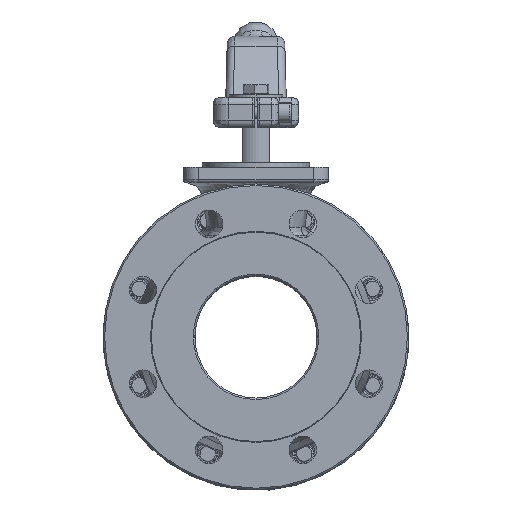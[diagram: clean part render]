
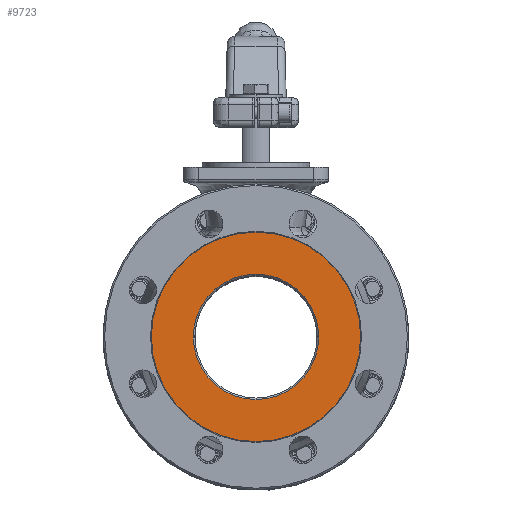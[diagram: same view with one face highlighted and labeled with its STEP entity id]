
A CAD part, top view. The second image highlights one B-rep face of the part: STEP entity #9723.
In plain terms, the highlighted planar face has unit normal (0, 0, 1) as drawn and (0, -1, 0) by its records, which use the part's own axes.
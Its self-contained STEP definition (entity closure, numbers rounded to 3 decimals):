
#303 = CARTESIAN_POINT ( 'NONE',  ( 0., -64.75, -7. ) ) ;
#840 = DIRECTION ( 'NONE',  ( 0., 1., 0. ) ) ;
#842 = ORIENTED_EDGE ( 'NONE', *, *, #29095, .F. ) ;
#1720 = DIRECTION ( 'NONE',  ( 0., 1., 0. ) ) ;
#3445 = DIRECTION ( 'NONE',  ( 0., 0., -1. ) ) ;
#4604 = CIRCLE ( 'NONE', #25547, 41. ) ;
#5002 = EDGE_CURVE ( 'NONE', #19819, #14592, #4604, .T. ) ;
#9723 = ADVANCED_FACE ( 'NONE', ( #12821, #28491 ), #32074, .T. ) ;
#9927 = VERTEX_POINT ( 'NONE', #29290 ) ;
#9960 = CARTESIAN_POINT ( 'NONE',  ( 0., -64.75, -7. ) ) ;
#10192 = EDGE_LOOP ( 'NONE', ( #842, #14095 ) ) ;
#10295 = CIRCLE ( 'NONE', #24162, 41. ) ;
#11205 = CARTESIAN_POINT ( 'NONE',  ( 0., -64.75, -48. ) ) ;
#12175 = EDGE_LOOP ( 'NONE', ( #26979, #24921 ) ) ;
#12821 = FACE_BOUND ( 'NONE', #12175, .T. ) ;
#13094 = DIRECTION ( 'NONE',  ( 0., 0., 1. ) ) ;
#14095 = ORIENTED_EDGE ( 'NONE', *, *, #23642, .F. ) ;
#14592 = VERTEX_POINT ( 'NONE', #39491 ) ;
#19609 = DIRECTION ( 'NONE',  ( 0., 0., -1. ) ) ;
#19618 = CARTESIAN_POINT ( 'NONE',  ( 0., -64.75, -7. ) ) ;
#19819 = VERTEX_POINT ( 'NONE', #11205 ) ;
#20533 = CARTESIAN_POINT ( 'NONE',  ( 0., -64.75, -7. ) ) ;
#22248 = DIRECTION ( 'NONE',  ( 0., 1., 0. ) ) ;
#22781 = DIRECTION ( 'NONE',  ( 0., 0., -1. ) ) ;
#23642 = EDGE_CURVE ( 'NONE', #39727, #9927, #37329, .T. ) ;
#23666 = DIRECTION ( 'NONE',  ( 0., 0., 1. ) ) ;
#23917 = AXIS2_PLACEMENT_3D ( 'NONE', #31945, #38384, #19609 ) ;
#24162 = AXIS2_PLACEMENT_3D ( 'NONE', #19618, #840, #22781 ) ;
#24886 = EDGE_CURVE ( 'NONE', #14592, #19819, #10295, .T. ) ;
#24921 = ORIENTED_EDGE ( 'NONE', *, *, #24886, .T. ) ;
#25547 = AXIS2_PLACEMENT_3D ( 'NONE', #303, #22248, #3445 ) ;
#26979 = ORIENTED_EDGE ( 'NONE', *, *, #5002, .T. ) ;
#27815 = AXIS2_PLACEMENT_3D ( 'NONE', #9960, #31893, #13094 ) ;
#28491 = FACE_OUTER_BOUND ( 'NONE', #10192, .T. ) ;
#29095 = EDGE_CURVE ( 'NONE', #9927, #39727, #36631, .T. ) ;
#29290 = CARTESIAN_POINT ( 'NONE',  ( 0., -64.75, 61.464 ) ) ;
#30515 = AXIS2_PLACEMENT_3D ( 'NONE', #20533, #1720, #23666 ) ;
#31893 = DIRECTION ( 'NONE',  ( 0., 1., 0. ) ) ;
#31945 = CARTESIAN_POINT ( 'NONE',  ( 0., -64.75, -41.232 ) ) ;
#32074 = PLANE ( 'NONE',  #23917 ) ;
#36631 = CIRCLE ( 'NONE', #30515, 68.464 ) ;
#37329 = CIRCLE ( 'NONE', #27815, 68.464 ) ;
#38384 = DIRECTION ( 'NONE',  ( 0., -1., 0. ) ) ;
#38926 = CARTESIAN_POINT ( 'NONE',  ( 0., -64.75, -75.464 ) ) ;
#39491 = CARTESIAN_POINT ( 'NONE',  ( 0., -64.75, 34. ) ) ;
#39727 = VERTEX_POINT ( 'NONE', #38926 ) ;
